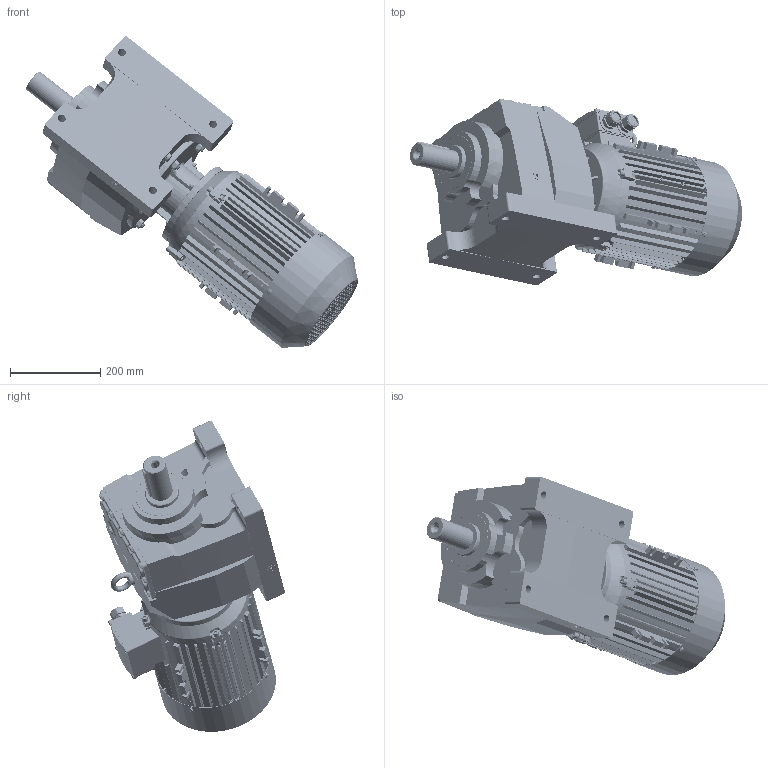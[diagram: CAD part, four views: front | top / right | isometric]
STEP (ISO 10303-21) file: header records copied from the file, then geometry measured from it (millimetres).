
FILE_DESCRIPTION (( 'STEP AP203' ), '1' );
FILE_NAME ('MV_473_0_MX-132S.STEP', '2018-11-27T12:27:31', ( '' ), ( '' ), 'SwSTEP 2.0', 'SolidWorks 2012', '' );
FILE_SCHEMA (( 'CONFIG_CONTROL_DESIGN' ));
Length unit declared in the file: millimetre
Products named in the file (32): DMX-IE3 Flange; plain parallel keys_GB_CONNECTING_PIECE_KEYS_CSK 10X70_2; MX3-132S_B14; MV_473_0_MX-132S; cross recessed pan head screws gb_GB_CROSS_SCREWS_TYPE1 M5X8-8  H type-N_2; cross recessed pan head screws gb_GB_CROSS_SCREWS_TYPE1 M5X25-25  H type-N_2; DMX-IE3 132S4 fan_2; hexagon socket head cap screws gb_GB_FASTENER_SCREWS_HSHCS M8X35-N_2; plain washers--product grade c gb_GB_FASTENER_WASHER_SMWC 4_2; cross recessed pan head screws gb_GB_CROSS_SCREWS_TYPE1 M4X6-6  H type-N_2; eyebolts gb_GB_FASTENER_SCREWS_FRS M10-S_2; DMX-IE3 132S4 grouding mark_2; circlips for shaft--type a large gb_GB_CONNECTING_PIECE_RING_RRA 29_2; DMX-IE3 132S4  oil seal_2; DMX-IE3 132S4  cable glands_2; spring lock washers--normal type gb_GB_FASTENER_WASHER_SW 8_2; DMX-IE3 132S4   gasket for terminal box cover_2; DMX-IE3 132S4   gasket for terminal box base_2; DMX-IE3 132S4  connection board_2; cross recessed pan head screws gb_GB_CROSS_SCREWS_TYPE1 M5X10-10  H type-N_2; hex flange bolts-heavy grade b gb_GB_FASTENER_BOLT_HFBB M5X10-N_2; DMX-IE3 132S4   fan cover_2; hexagon nuts grade c gb_GB_FASTENER_NUT_SNC1 M8-N_2; DMX-IE3 132S4  terminal box_2; DMX-IE3 132S4   rotor2_2; DMX-IE3 132S4   terminal box cover_2; DMX-IE3 132S4  casing_2; DMX-IE3 132S4  flange B3_2; DMX-IE3 132S4   rotor1_2; ML4A_Varsayìlan; M473_Varsayìlan; 43132B14_Varsayìlan
Assembly tree (64 placements, depth 3):
  MV_473_0_MX-132S
    M473_Varsayìlan
    43132B14_Varsayìlan
    ML4A_Varsayìlan
    MX3-132S_B14
      DMX-IE3 132S4  casing_2
      DMX-IE3 132S4  flange B3_2
      DMX-IE3 132S4   rotor1_2
      DMX-IE3 132S4   rotor2_2
      DMX-IE3 132S4   terminal box cover_2
      DMX-IE3 132S4  terminal box_2
      DMX-IE3 132S4   fan cover_2
      hex flange bolts-heavy grade b gb_GB_FASTENER_BOLT_HFBB M5X10-N_2  x4
      cross recessed pan head screws gb_GB_CROSS_SCREWS_TYPE1 M5X10-10  H type-N_2  x4
      hexagon nuts grade c gb_GB_FASTENER_NUT_SNC1 M8-N_2  x7
      spring lock washers--normal type gb_GB_FASTENER_WASHER_SW 8_2  x8
      DMX-IE3 132S4   gasket for terminal box base_2
      DMX-IE3 132S4  connection board_2
      DMX-IE3 132S4   gasket for terminal box cover_2
      DMX-IE3 132S4  oil seal_2
      DMX-IE3 132S4  cable glands_2  x2
      circlips for shaft--type a large gb_GB_CONNECTING_PIECE_RING_RRA 29_2
      DMX-IE3 132S4 grouding mark_2
      cross recessed pan head screws gb_GB_CROSS_SCREWS_TYPE1 M4X6-6  H type-N_2  x3
      eyebolts gb_GB_FASTENER_SCREWS_FRS M10-S_2
      plain washers--product grade c gb_GB_FASTENER_WASHER_SMWC 4_2
      hexagon socket head cap screws gb_GB_FASTENER_SCREWS_HSHCS M8X35-N_2  x8
      DMX-IE3 132S4 fan_2
      cross recessed pan head screws gb_GB_CROSS_SCREWS_TYPE1 M5X25-25  H type-N_2  x2
      cross recessed pan head screws gb_GB_CROSS_SCREWS_TYPE1 M5X8-8  H type-N_2  x4
      plain parallel keys_GB_CONNECTING_PIECE_KEYS_CSK 10X70_2
      DMX-IE3 Flange
Bounding box: 734.14 x 412.17 x 688.92 mm (x, y, z)
Volume: 24955114.8 mm3; surface area: 2337793.5 mm2
Topology: 66 solids, 68 shells, 5772 faces, 15093 edges, 9622 vertices
Faces by surface type: plane 2946, cylinder 1278, bspline 833, cone 715
Entity records: 215528 total; most frequent: CARTESIAN_POINT 88858, ORIENTED_EDGE 26682, DIRECTION 23626, EDGE_CURVE 13341, VERTEX_POINT 8551, AXIS2_PLACEMENT_3D 8024, VECTOR 7578, LINE 7578
